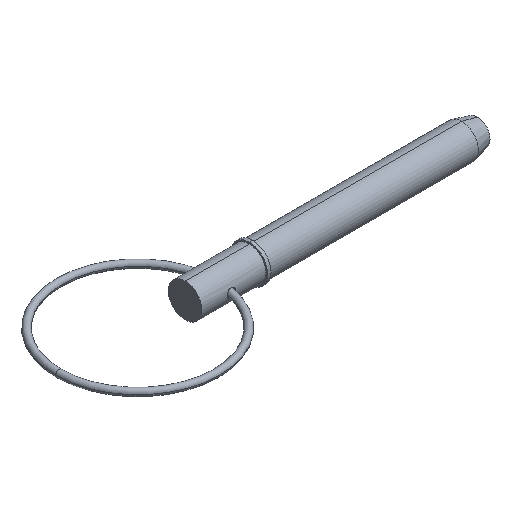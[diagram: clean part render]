
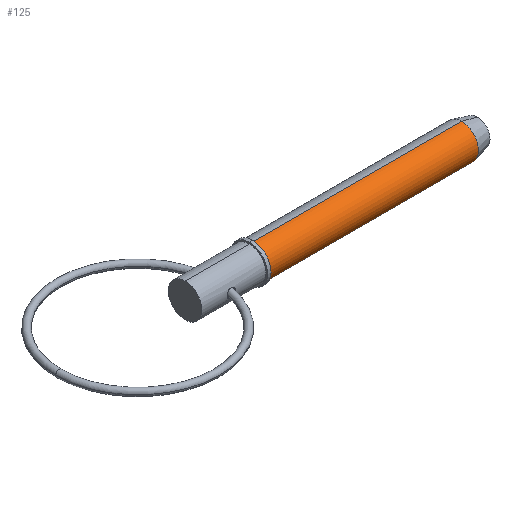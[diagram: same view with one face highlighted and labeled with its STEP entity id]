
A CAD part, isometric view. The second image highlights one B-rep face of the part: STEP entity #125.
In plain terms, the highlighted cylindrical face has radius 4.765 mm (diameter 9.53 mm), a partial arc.
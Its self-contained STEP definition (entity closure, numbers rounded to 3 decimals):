
#11 = DIRECTION ( 'NONE',  ( 1., 0., 0. ) ) ;
#12 = AXIS2_PLACEMENT_3D ( 'NONE', #246, #650, #1014 ) ;
#45 = FACE_OUTER_BOUND ( 'NONE', #702, .T. ) ;
#48 = CARTESIAN_POINT ( 'NONE',  ( 78.104, 0., 0. ) ) ;
#59 = DIRECTION ( 'NONE',  ( 0., 0., -1. ) ) ;
#71 = CARTESIAN_POINT ( 'NONE',  ( 0., 0., -4.765 ) ) ;
#87 = ORIENTED_EDGE ( 'NONE', *, *, #965, .T. ) ;
#125 = ADVANCED_FACE ( 'NONE', ( #45 ), #855, .T. ) ;
#184 = VERTEX_POINT ( 'NONE', #717 ) ;
#185 = EDGE_CURVE ( 'NONE', #414, #292, #494, .T. ) ;
#187 = AXIS2_PLACEMENT_3D ( 'NONE', #942, #571, #311 ) ;
#210 = EDGE_CURVE ( 'NONE', #414, #972, #330, .T. ) ;
#246 = CARTESIAN_POINT ( 'NONE',  ( 19.05, 0., 0. ) ) ;
#253 = CARTESIAN_POINT ( 'NONE',  ( 0., 0., 4.765 ) ) ;
#258 = ORIENTED_EDGE ( 'NONE', *, *, #997, .F. ) ;
#280 = VECTOR ( 'NONE', #525, 1000. ) ;
#292 = VERTEX_POINT ( 'NONE', #734 ) ;
#311 = DIRECTION ( 'NONE',  ( 0., 0., -1. ) ) ;
#330 = CIRCLE ( 'NONE', #12, 4.765 ) ;
#345 = VECTOR ( 'NONE', #11, 1000. ) ;
#362 = AXIS2_PLACEMENT_3D ( 'NONE', #48, #676, #59 ) ;
#414 = VERTEX_POINT ( 'NONE', #837 ) ;
#451 = CARTESIAN_POINT ( 'NONE',  ( 19.05, 0., -4.765 ) ) ;
#461 = LINE ( 'NONE', #71, #280 ) ;
#494 = LINE ( 'NONE', #253, #345 ) ;
#525 = DIRECTION ( 'NONE',  ( 1., 0., 0. ) ) ;
#571 = DIRECTION ( 'NONE',  ( 1., 0., 0. ) ) ;
#575 = ORIENTED_EDGE ( 'NONE', *, *, #210, .T. ) ;
#650 = DIRECTION ( 'NONE',  ( 1., 0., 0. ) ) ;
#675 = CIRCLE ( 'NONE', #362, 4.765 ) ;
#676 = DIRECTION ( 'NONE',  ( 1., 0., 0. ) ) ;
#702 = EDGE_LOOP ( 'NONE', ( #1009, #575, #87, #258 ) ) ;
#717 = CARTESIAN_POINT ( 'NONE',  ( 78.104, 0., -4.765 ) ) ;
#734 = CARTESIAN_POINT ( 'NONE',  ( 78.104, 0., 4.765 ) ) ;
#837 = CARTESIAN_POINT ( 'NONE',  ( 19.05, 0., 4.765 ) ) ;
#855 = CYLINDRICAL_SURFACE ( 'NONE', #187, 4.765 ) ;
#942 = CARTESIAN_POINT ( 'NONE',  ( 0., 0., 0. ) ) ;
#965 = EDGE_CURVE ( 'NONE', #972, #184, #461, .T. ) ;
#972 = VERTEX_POINT ( 'NONE', #451 ) ;
#997 = EDGE_CURVE ( 'NONE', #292, #184, #675, .T. ) ;
#1009 = ORIENTED_EDGE ( 'NONE', *, *, #185, .F. ) ;
#1014 = DIRECTION ( 'NONE',  ( 0., 0., -1. ) ) ;
